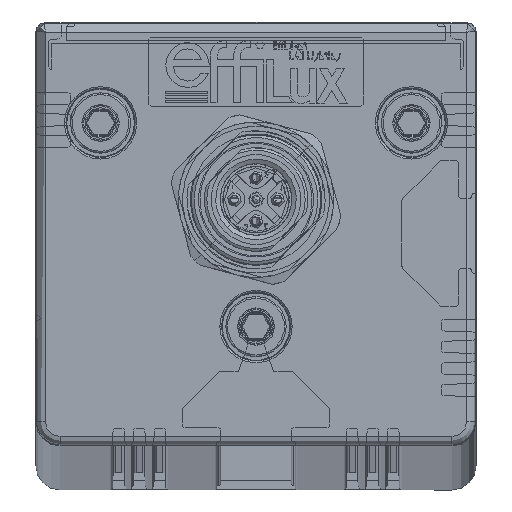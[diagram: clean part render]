
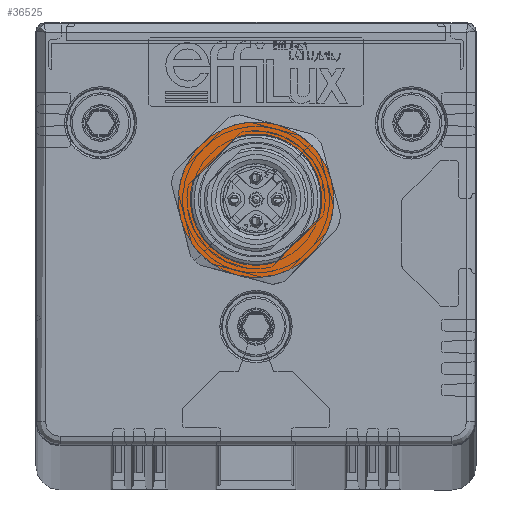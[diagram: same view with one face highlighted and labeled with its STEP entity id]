
A CAD part, top view. The second image highlights one B-rep face of the part: STEP entity #36525.
In plain terms, the highlighted planar face has unit normal (0, 0, 1).
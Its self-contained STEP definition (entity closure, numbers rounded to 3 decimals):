
#734 = DIRECTION ( 'NONE',  ( 0., 1., 0. ) ) ;
#893 = VERTEX_POINT ( 'NONE', #14933 ) ;
#2072 = LINE ( 'NONE', #19722, #26066 ) ;
#2861 = CARTESIAN_POINT ( 'NONE',  ( 0., 9., 7.1 ) ) ;
#3693 = EDGE_CURVE ( 'NONE', #24544, #52968, #37754, .T. ) ;
#3815 = DIRECTION ( 'NONE',  ( 1., 0., 0. ) ) ;
#4150 = CARTESIAN_POINT ( 'NONE',  ( 0., 7.6, 7.1 ) ) ;
#5228 = EDGE_CURVE ( 'NONE', #34536, #19183, #58096, .T. ) ;
#5408 = AXIS2_PLACEMENT_3D ( 'NONE', #53411, #12072, #52529 ) ;
#5443 = CARTESIAN_POINT ( 'NONE',  ( 6.7, -3.587, 7.1 ) ) ;
#5693 = CARTESIAN_POINT ( 'NONE',  ( -4.5, -7.794, 7.1 ) ) ;
#5743 = CIRCLE ( 'NONE', #38280, 7.6 ) ;
#6011 = EDGE_LOOP ( 'NONE', ( #48690, #54172, #31588, #26724, #8962 ) ) ;
#6255 = DIRECTION ( 'NONE',  ( 0., 1., 0. ) ) ;
#6929 = AXIS2_PLACEMENT_3D ( 'NONE', #29045, #38577, #15827 ) ;
#8962 = ORIENTED_EDGE ( 'NONE', *, *, #33986, .T. ) ;
#9008 = DIRECTION ( 'NONE',  ( 0., 0., -1. ) ) ;
#11531 = CARTESIAN_POINT ( 'NONE',  ( 0., 0., 7.1 ) ) ;
#11638 = FACE_OUTER_BOUND ( 'NONE', #35027, .T. ) ;
#11837 = DIRECTION ( 'NONE',  ( 0., 1., 0. ) ) ;
#12072 = DIRECTION ( 'NONE',  ( 0., 0., -1. ) ) ;
#12173 = CARTESIAN_POINT ( 'NONE',  ( 0., 0., 7.1 ) ) ;
#12468 = CARTESIAN_POINT ( 'NONE',  ( 0., 0., 7.1 ) ) ;
#12643 = ORIENTED_EDGE ( 'NONE', *, *, #35053, .F. ) ;
#12898 = AXIS2_PLACEMENT_3D ( 'NONE', #55843, #33687, #734 ) ;
#14933 = CARTESIAN_POINT ( 'NONE',  ( 0., 7.6, 7.1 ) ) ;
#15129 = CIRCLE ( 'NONE', #48593, 7.6 ) ;
#15827 = DIRECTION ( 'NONE',  ( 0., 1., 0. ) ) ;
#16985 = EDGE_CURVE ( 'NONE', #41959, #34536, #22445, .T. ) ;
#19183 = VERTEX_POINT ( 'NONE', #54810 ) ;
#19722 = CARTESIAN_POINT ( 'NONE',  ( 6.7, 0., 7.1 ) ) ;
#20157 = VERTEX_POINT ( 'NONE', #21302 ) ;
#20430 = VERTEX_POINT ( 'NONE', #58692 ) ;
#21302 = CARTESIAN_POINT ( 'NONE',  ( -6.7, 3.587, 7.1 ) ) ;
#21801 = CARTESIAN_POINT ( 'NONE',  ( -6.7, 0., 7.1 ) ) ;
#22353 = DIRECTION ( 'NONE',  ( 0., 0., -1. ) ) ;
#22445 = CIRCLE ( 'NONE', #25387, 9. ) ;
#22532 = CARTESIAN_POINT ( 'NONE',  ( -9., 0., 7.1 ) ) ;
#22623 = ORIENTED_EDGE ( 'NONE', *, *, #57669, .F. ) ;
#22922 = ORIENTED_EDGE ( 'NONE', *, *, #5228, .F. ) ;
#23766 = CIRCLE ( 'NONE', #40025, 9. ) ;
#24007 = CIRCLE ( 'NONE', #32626, 9. ) ;
#24544 = VERTEX_POINT ( 'NONE', #5693 ) ;
#24561 = CIRCLE ( 'NONE', #5408, 9. ) ;
#25387 = AXIS2_PLACEMENT_3D ( 'NONE', #32521, #50783, #46291 ) ;
#25908 = VERTEX_POINT ( 'NONE', #2861 ) ;
#26066 = VECTOR ( 'NONE', #6255, 1000. ) ;
#26724 = ORIENTED_EDGE ( 'NONE', *, *, #38415, .T. ) ;
#27346 = DIRECTION ( 'NONE',  ( 0., 1., 0. ) ) ;
#28149 = CARTESIAN_POINT ( 'NONE',  ( 0., 0., 7.1 ) ) ;
#29045 = CARTESIAN_POINT ( 'NONE',  ( 0., 0., 7.1 ) ) ;
#30355 = EDGE_CURVE ( 'NONE', #47082, #20430, #47291, .T. ) ;
#31403 = DIRECTION ( 'NONE',  ( 0., 0., -1. ) ) ;
#31588 = ORIENTED_EDGE ( 'NONE', *, *, #53733, .F. ) ;
#31997 = CARTESIAN_POINT ( 'NONE',  ( 9., 0., 7.1 ) ) ;
#32236 = AXIS2_PLACEMENT_3D ( 'NONE', #11531, #57396, #11837 ) ;
#32521 = CARTESIAN_POINT ( 'NONE',  ( 0., 0., 7.1 ) ) ;
#32626 = AXIS2_PLACEMENT_3D ( 'NONE', #49498, #9008, #27346 ) ;
#33687 = DIRECTION ( 'NONE',  ( 0., 0., -1. ) ) ;
#33803 = EDGE_CURVE ( 'NONE', #52968, #34572, #23766, .T. ) ;
#33986 = EDGE_CURVE ( 'NONE', #893, #57962, #15129, .T. ) ;
#34536 = VERTEX_POINT ( 'NONE', #31997 ) ;
#34572 = VERTEX_POINT ( 'NONE', #40964 ) ;
#34657 = DIRECTION ( 'NONE',  ( 0., 1., 0. ) ) ;
#34947 = CARTESIAN_POINT ( 'NONE',  ( 4.5, 7.794, 7.1 ) ) ;
#35027 = EDGE_LOOP ( 'NONE', ( #39207, #46429, #42068, #22623, #22922, #51030, #12643 ) ) ;
#35053 = EDGE_CURVE ( 'NONE', #25908, #41959, #24561, .T. ) ;
#35868 = DIRECTION ( 'NONE',  ( 1., 0., 0. ) ) ;
#36525 = ADVANCED_FACE ( 'NONE', ( #11638, #56599 ), #39224, .T. ) ;
#37754 = CIRCLE ( 'NONE', #12898, 9. ) ;
#38280 = AXIS2_PLACEMENT_3D ( 'NONE', #28149, #56769, #51971 ) ;
#38415 = EDGE_CURVE ( 'NONE', #20157, #893, #5743, .T. ) ;
#38577 = DIRECTION ( 'NONE',  ( 0., 0., -1. ) ) ;
#38857 = DIRECTION ( 'NONE',  ( 0., 0., -1. ) ) ;
#39207 = ORIENTED_EDGE ( 'NONE', *, *, #46114, .F. ) ;
#39217 = LINE ( 'NONE', #21801, #42042 ) ;
#39224 = PLANE ( 'NONE',  #40926 ) ;
#39512 = CIRCLE ( 'NONE', #6929, 9. ) ;
#40025 = AXIS2_PLACEMENT_3D ( 'NONE', #12173, #38857, #34657 ) ;
#40534 = EDGE_CURVE ( 'NONE', #47082, #57962, #2072, .T. ) ;
#40926 = AXIS2_PLACEMENT_3D ( 'NONE', #4150, #58381, #35868 ) ;
#40964 = CARTESIAN_POINT ( 'NONE',  ( -4.5, 7.794, 7.1 ) ) ;
#41559 = AXIS2_PLACEMENT_3D ( 'NONE', #53843, #31403, #3815 ) ;
#41959 = VERTEX_POINT ( 'NONE', #34947 ) ;
#42042 = VECTOR ( 'NONE', #58673, 1000. ) ;
#42068 = ORIENTED_EDGE ( 'NONE', *, *, #3693, .F. ) ;
#46114 = EDGE_CURVE ( 'NONE', #34572, #25908, #24007, .T. ) ;
#46291 = DIRECTION ( 'NONE',  ( 0., 1., 0. ) ) ;
#46429 = ORIENTED_EDGE ( 'NONE', *, *, #33803, .F. ) ;
#47082 = VERTEX_POINT ( 'NONE', #5443 ) ;
#47291 = CIRCLE ( 'NONE', #41559, 7.6 ) ;
#48217 = CARTESIAN_POINT ( 'NONE',  ( 6.7, 3.587, 7.1 ) ) ;
#48593 = AXIS2_PLACEMENT_3D ( 'NONE', #12468, #22353, #58912 ) ;
#48690 = ORIENTED_EDGE ( 'NONE', *, *, #40534, .F. ) ;
#49498 = CARTESIAN_POINT ( 'NONE',  ( 0., 0., 7.1 ) ) ;
#50783 = DIRECTION ( 'NONE',  ( 0., 0., -1. ) ) ;
#51030 = ORIENTED_EDGE ( 'NONE', *, *, #16985, .F. ) ;
#51971 = DIRECTION ( 'NONE',  ( 1., 0., 0. ) ) ;
#52529 = DIRECTION ( 'NONE',  ( 0., 1., 0. ) ) ;
#52968 = VERTEX_POINT ( 'NONE', #22532 ) ;
#53411 = CARTESIAN_POINT ( 'NONE',  ( 0., 0., 7.1 ) ) ;
#53733 = EDGE_CURVE ( 'NONE', #20157, #20430, #39217, .T. ) ;
#53843 = CARTESIAN_POINT ( 'NONE',  ( 0., 0., 7.1 ) ) ;
#54172 = ORIENTED_EDGE ( 'NONE', *, *, #30355, .T. ) ;
#54810 = CARTESIAN_POINT ( 'NONE',  ( 4.5, -7.794, 7.1 ) ) ;
#55843 = CARTESIAN_POINT ( 'NONE',  ( 0., 0., 7.1 ) ) ;
#56599 = FACE_BOUND ( 'NONE', #6011, .T. ) ;
#56769 = DIRECTION ( 'NONE',  ( 0., 0., -1. ) ) ;
#57396 = DIRECTION ( 'NONE',  ( 0., 0., -1. ) ) ;
#57669 = EDGE_CURVE ( 'NONE', #19183, #24544, #39512, .T. ) ;
#57962 = VERTEX_POINT ( 'NONE', #48217 ) ;
#58096 = CIRCLE ( 'NONE', #32236, 9. ) ;
#58381 = DIRECTION ( 'NONE',  ( 0., 0., 1. ) ) ;
#58673 = DIRECTION ( 'NONE',  ( 0., -1., 0. ) ) ;
#58692 = CARTESIAN_POINT ( 'NONE',  ( -6.7, -3.587, 7.1 ) ) ;
#58912 = DIRECTION ( 'NONE',  ( 1., 0., 0. ) ) ;
